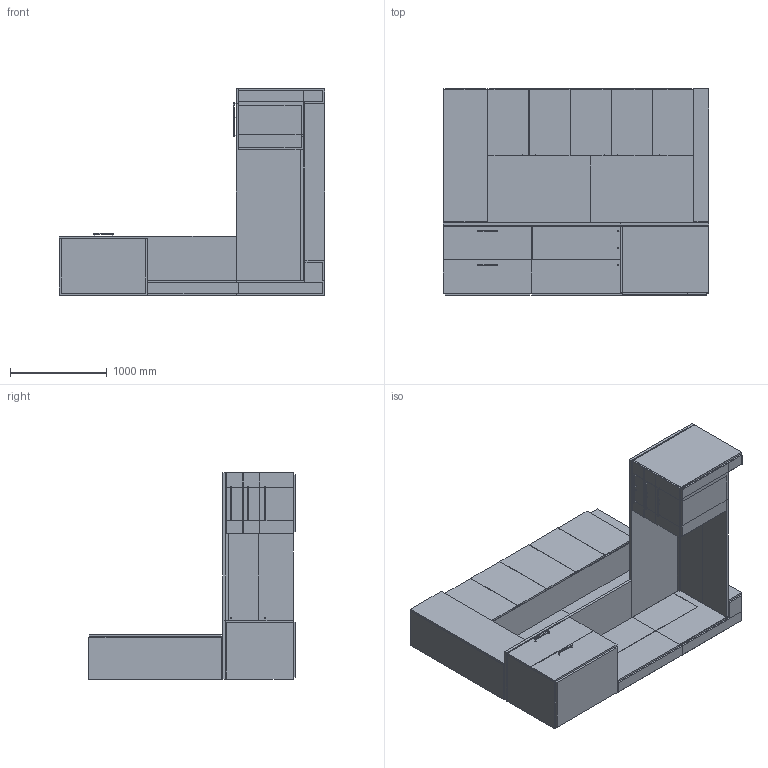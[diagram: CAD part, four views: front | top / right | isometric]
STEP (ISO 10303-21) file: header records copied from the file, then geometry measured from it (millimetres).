
FILE_DESCRIPTION(/* description */ ('','CAx-IF Rec.Pracs.---Representation and Presentation of Product Manufacturing Information (PMI)---4.0---2014-10-13'),/* implementation_level */ '2;1');
FILE_NAME(/* name */ 'BASYS^PO3.stp',/* time_stamp */ '2024-12-05T17:33:00-05:00',/* author */ ('mbowman'),/* organization */ (''),/* preprocessor_version */ 'ST-DEVELOPER v19.2',/* originating_system */ 'Autodesk Inventor 2023',/* authorisation */ '');
FILE_SCHEMA (('AP242_MANAGED_MODEL_BASED_3D_ENGINEERING_MIM_LF { 1 0 10303 442 1 1 4 }'));
Length unit declared in the file: inch
Products named in the file (17): BASYS^OFFICE 4B84_STRAIGHT TOP DESK RT-LEFT HAND OFFICE; BASYS^CREDENZA 5B 29-72 FF BF STORAGE; BASYS^CREDENZA 5B 29-72 FF BF STORAGE_1; BASYS^WOOD END BASES_FULL MODESTY-84x30 BBF RT; BASYS^RT WOOD END BASE_FULL MODESTY-84x30 BASE; BASYS^27.25 DEEP PED_LEGAL-BBF PED (MOD); BASYS^27.25 DEEP PED_LEGAL-BBF PED (MOD)_1; BASYS^WOOD END BASES_HALF MODESTY-84x30 BBF RT; BASYS^WOOD END BASES_HALF MODESTY-84x30 BASE; BASYS^27.25 DEEP PED_LEGAL-BBF PED; BASYS^27.25 DEEP PED_LEGAL-BBF PED_1; SCHWINN-BAR PULL 2334.192; BASYS^OFFICE 3_WARDROBE-PARTS SOLID; BASYS^OFFICE 3_WALL HUNG STORAGE-5 DOORS; BASYS^WIRE WALLS_72 WIRE WALL-ACCESS LEFT; BASYS^OFFICE 3_WALL HUNGS-TACKBOARD; BASYS^OFFICE 3_CORNER COLUMN-5 DOORS
Assembly tree (24 placements, depth 4):
  BASYS^OFFICE 4B84_STRAIGHT TOP DESK RT-LEFT HAND OFFICE
    BASYS^CREDENZA 5B 29-72 FF BF STORAGE
      BASYS^CREDENZA 5B 29-72 FF BF STORAGE_1
      SCHWINN-BAR PULL 2334.192  x2
    BASYS^WOOD END BASES_FULL MODESTY-84x30 BBF RT
      BASYS^RT WOOD END BASE_FULL MODESTY-84x30 BASE
      BASYS^27.25 DEEP PED_LEGAL-BBF PED (MOD)
        BASYS^27.25 DEEP PED_LEGAL-BBF PED (MOD)_1
        SCHWINN-BAR PULL 2334.192  x3
    BASYS^WOOD END BASES_HALF MODESTY-84x30 BBF RT
      BASYS^WOOD END BASES_HALF MODESTY-84x30 BASE
      BASYS^27.25 DEEP PED_LEGAL-BBF PED
        BASYS^27.25 DEEP PED_LEGAL-BBF PED_1
        SCHWINN-BAR PULL 2334.192  x3
    BASYS^OFFICE 3_WARDROBE-PARTS SOLID
    BASYS^OFFICE 3_WALL HUNG STORAGE-5 DOORS
    BASYS^WIRE WALLS_72 WIRE WALL-ACCESS LEFT
    BASYS^OFFICE 3_WALL HUNGS-TACKBOARD  x2
    BASYS^OFFICE 3_CORNER COLUMN-5 DOORS
Bounding box: 2743.2 x 2133.6 x 2133.6 mm (x, y, z)
Volume: 695237182.7 mm3; surface area: 68099403.8 mm2
Topology: 86 solids, 86 shells, 607 faces, 1290 edges, 855 vertices
Faces by surface type: plane 587, cylinder 15, sphere 5
Entity records: 18044 total; most frequent: CARTESIAN_POINT 3931, DIRECTION 2350, ORIENTED_EDGE 2196, EDGE_CURVE 1098, LINE 1068, VECTOR 1068, STYLED_ITEM 996, VERTEX_POINT 727
